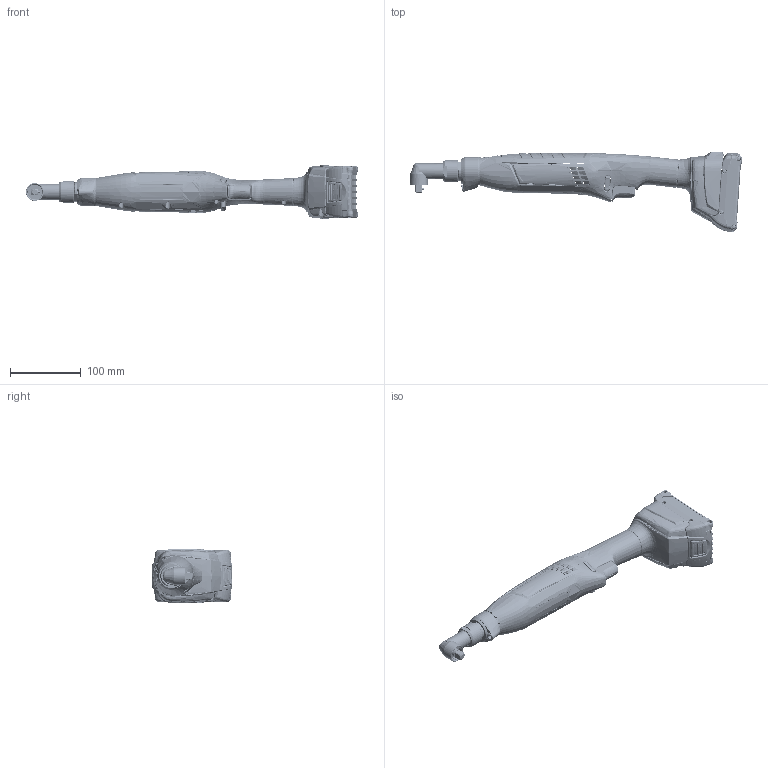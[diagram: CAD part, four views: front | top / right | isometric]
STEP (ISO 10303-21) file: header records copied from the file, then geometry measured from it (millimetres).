
FILE_DESCRIPTION((''),'2;1');
FILE_NAME('AWAS_15-500_L_WK_SW0001','2011-06-29T',('lem2mt'),(''),'PRO/ENGINEER BY PARAMETRIC TECHNOLOGY CORPORATION, 2009380','PRO/ENGINEER BY PARAMETRIC TECHNOLOGY CORPORATION, 2009380','');
FILE_SCHEMA(('AUTOMOTIVE_DESIGN_CC2 { 1 2 10303 214 -1 1 5 2 }'));
Length unit declared in the file: millimetre
Products named in the file (1): AWAS_15-500_L_WK_SW0001
Bounding box: 468.32 x 114.12 x 77.09 mm (x, y, z)
Volume: 354955.4 mm3; surface area: 325288.4 mm2
Topology: 5 solids, 5 shells, 15238 faces, 39787 edges, 24580 vertices
Faces by surface type: plane 4950, bspline 4634, cylinder 3478, cone 937, torus 640, sphere 444, extrusion 155
Entity records: 1154922 total; most frequent: CARTESIAN_POINT 558226, ORIENTED_EDGE 79492, PRESENTATION_STYLE_ASSIGNMENT 55123, DIRECTION 52564, STYLED_ITEM 39906, CURVE_STYLE 39901, EDGE_CURVE 39746, VERTEX_POINT 24581
